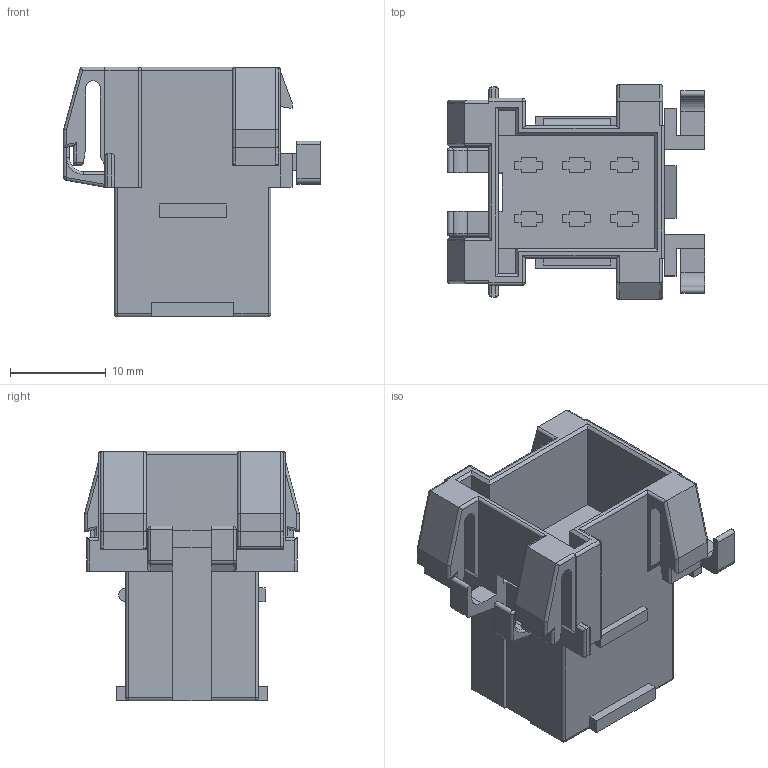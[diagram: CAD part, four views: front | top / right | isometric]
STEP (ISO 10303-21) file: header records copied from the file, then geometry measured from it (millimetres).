
FILE_DESCRIPTION((''),'2;1');
FILE_NAME('C-929505-2','2009-03-12T',('workeradm'),('Tyco Electronics Corporation'),'PRO/ENGINEER BY PARAMETRIC TECHNOLOGY CORPORATION, 2007390','PRO/ENGINEER BY PARAMETRIC TECHNOLOGY CORPORATION, 2007390','');
FILE_SCHEMA(('AUTOMOTIVE_DESIGN { 1 0 10303 214 1 1 1 1 }'));
Length unit declared in the file: millimetre
Products named in the file (1): C-929505-2
Bounding box: 26.85 x 22.4 x 26 mm (x, y, z)
Volume: 3806.9 mm3; surface area: 5197.2 mm2
Topology: 1 solids, 1 shells, 482 faces, 1280 edges, 820 vertices
Faces by surface type: plane 361, cylinder 107, sphere 8, bspline 4, torus 2
Entity records: 15111 total; most frequent: CARTESIAN_POINT 3129, ORIENTED_EDGE 2560, DIRECTION 2276, EDGE_CURVE 1280, VECTOR 1108, LINE 1108, VERTEX_POINT 820, AXIS2_PLACEMENT_3D 584
